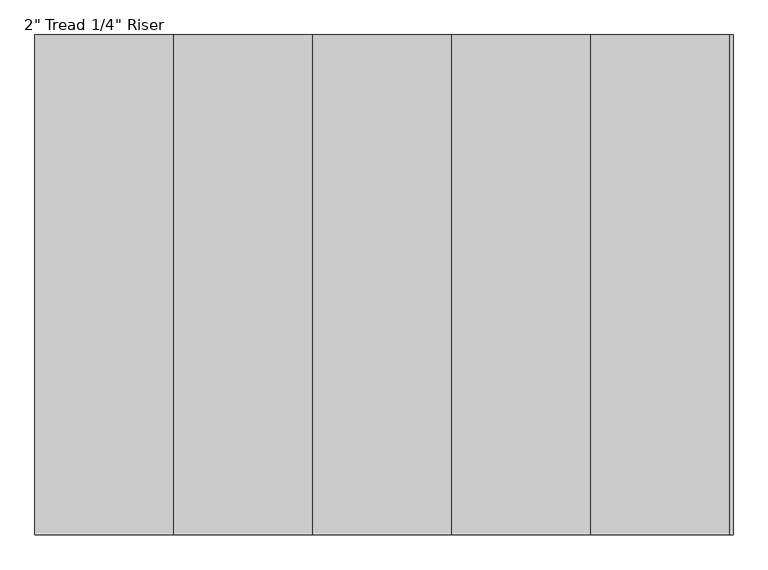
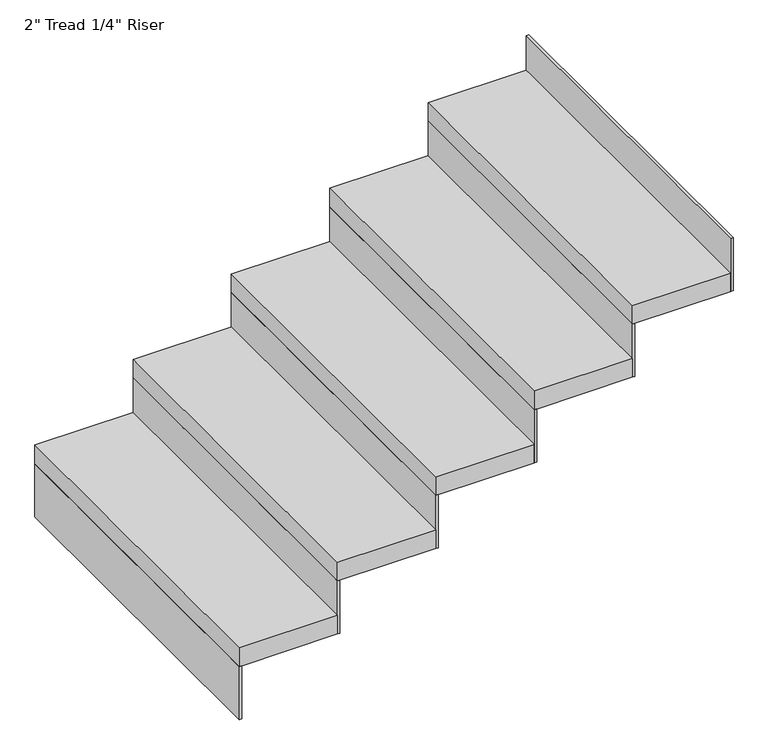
"""IFC4 building model written with IfcOpenShell, lengths in millimetres: stair flight geometry."""

from ifc_helpers import new_model, si_unit, frame, origin, place, context, project, spatial, polyline, outline, extrude, source, transform, mapped, element, save


def stair_flight_1623d5a6(model_context):
    return source(origin(), model_context, "Body", "SweptSolid", [
        extrude(outline(polyline([(2590.2660021, 21385.3361774), (2583.9160021, 21385.3361774), (2583.9160021, 22299.7361774), (2590.2660021, 22299.7361774), (2590.2660021, 21385.3361774)])), frame((0.0, 0.0, 2126.3428571), z_axis=(0.0, 0.0, 1.0), x_axis=(1.0, 0.0, 0.0)), (0.0, 0.0, 1.0), 145.1428571),
        extrude(outline(polyline([(2837.9160021, 22299.7361774), (2837.9160021, 21385.3361774), (2583.9160021, 21385.3361774), (2583.9160021, 22299.7361774), (2837.9160021, 22299.7361774)])), frame((0.0, 0.0, 2271.4857143), z_axis=(0.0, 0.0, 1.0), x_axis=(1.0, 0.0, 0.0)), (0.0, 0.0, 1.0), 50.8),
        extrude(outline(polyline([(2844.2660021, 21385.3361774), (2837.9160021, 21385.3361774), (2837.9160021, 22299.7361774), (2844.2660021, 22299.7361774), (2844.2660021, 21385.3361774)])), frame((0.0, 0.0, 2271.4857143), z_axis=(0.0, 0.0, 1.0), x_axis=(1.0, 0.0, 0.0)), (0.0, 0.0, 1.0), 145.1428571),
        extrude(outline(polyline([(3091.9160021, 22299.7361774), (3091.9160021, 21385.3361774), (2837.9160021, 21385.3361774), (2837.9160021, 22299.7361774), (3091.9160021, 22299.7361774)])), frame((0.0, 0.0, 2416.6285714), z_axis=(0.0, 0.0, 1.0), x_axis=(1.0, 0.0, 0.0)), (0.0, 0.0, 1.0), 50.8),
        extrude(outline(polyline([(3098.2660021, 21385.3361774), (3091.9160021, 21385.3361774), (3091.9160021, 22299.7361774), (3098.2660021, 22299.7361774), (3098.2660021, 21385.3361774)])), frame((0.0, 0.0, 2416.6285714), z_axis=(0.0, 0.0, 1.0), x_axis=(1.0, 0.0, 0.0)), (0.0, 0.0, 1.0), 145.1428571),
        extrude(outline(polyline([(3345.9160021, 22299.7361774), (3345.9160021, 21385.3361774), (3091.9160021, 21385.3361774), (3091.9160021, 22299.7361774), (3345.9160021, 22299.7361774)])), frame((0.0, 0.0, 2561.7714286), z_axis=(0.0, 0.0, 1.0), x_axis=(1.0, 0.0, 0.0)), (0.0, 0.0, 1.0), 50.8),
        extrude(outline(polyline([(3352.2660021, 21385.3361774), (3345.9160021, 21385.3361774), (3345.9160021, 22299.7361774), (3352.2660021, 22299.7361774), (3352.2660021, 21385.3361774)])), frame((0.0, 0.0, 2561.7714286), z_axis=(0.0, 0.0, 1.0), x_axis=(1.0, 0.0, 0.0)), (0.0, 0.0, 1.0), 145.1428571),
        extrude(outline(polyline([(3599.9160021, 22299.7361774), (3599.9160021, 21385.3361774), (3345.9160021, 21385.3361774), (3345.9160021, 22299.7361774), (3599.9160021, 22299.7361774)])), frame((0.0, 0.0, 2706.9142857), z_axis=(0.0, 0.0, 1.0), x_axis=(1.0, 0.0, 0.0)), (0.0, 0.0, 1.0), 50.8),
        extrude(outline(polyline([(3606.2660021, 21385.3361774), (3599.9160021, 21385.3361774), (3599.9160021, 22299.7361774), (3606.2660021, 22299.7361774), (3606.2660021, 21385.3361774)])), frame((0.0, 0.0, 2706.9142857), z_axis=(0.0, 0.0, 1.0), x_axis=(1.0, 0.0, 0.0)), (0.0, 0.0, 1.0), 145.1428571),
        extrude(outline(polyline([(3860.2660021, 21385.3361774), (3853.9160021, 21385.3361774), (3853.9160021, 22299.7361774), (3860.2660021, 22299.7361774), (3860.2660021, 21385.3361774)])), frame((0.0, 0.0, 2852.0571429), z_axis=(0.0, 0.0, 1.0), x_axis=(1.0, 0.0, 0.0)), (0.0, 0.0, 1.0), 145.1428571),
        extrude(outline(polyline([(3853.9160021, 22299.7361774), (3853.9160021, 21385.3361774), (3599.9160021, 21385.3361774), (3599.9160021, 22299.7361774), (3853.9160021, 22299.7361774)])), frame((0.0, 0.0, 2852.0571429), z_axis=(0.0, 0.0, 1.0), x_axis=(1.0, 0.0, 0.0)), (0.0, 0.0, 1.0), 50.8),
    ])


if __name__ == "__main__":
    model = new_model("IFC4")
    model_context = context("Model", 3, world=origin())
    ifc_project = project(units=[si_unit("LENGTHUNIT", "METRE", prefix="MILLI")], contexts=[model_context])
    site = spatial("IfcSite", under=ifc_project)
    building = spatial("IfcBuilding", under=site)
    placement = place(None, origin())
    stair_flight_shape = stair_flight_1623d5a6(model_context)
    element("IfcStairFlight", 1, ObjectType="2\" Tread 1/4\" Riser", at=placement, inside=building, context=model_context, shape_type="MappedRepresentation", body=[
        mapped(stair_flight_shape, transform((0.0, 0.0, 0.0), x_axis=(1.0, 0.0, 0.0), y_axis=(0.0, 1.0, 0.0), z_axis=(0.0, 0.0, 1.0))),
    ])
    save(model, "model.ifc")
